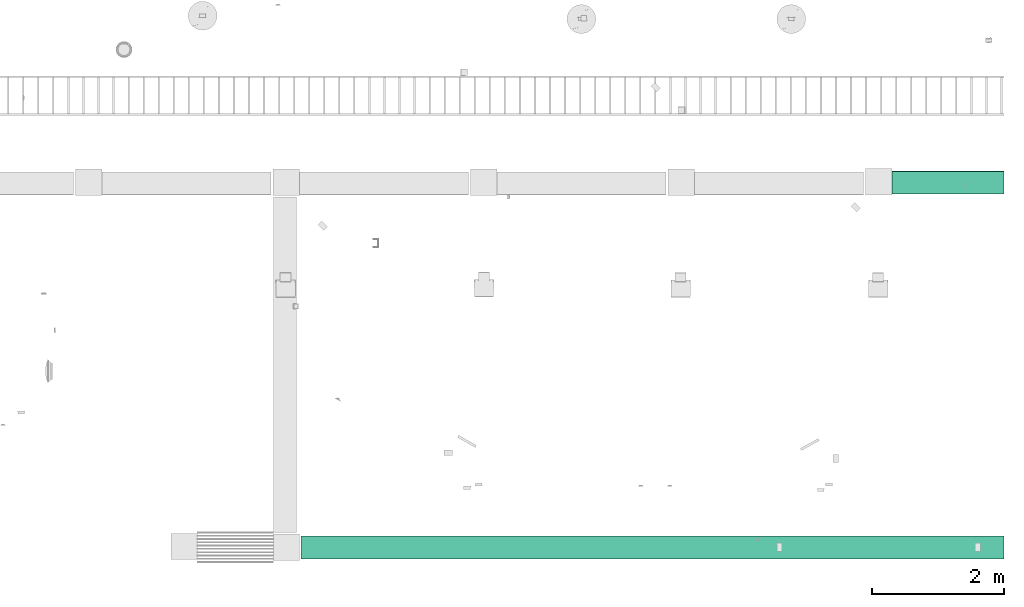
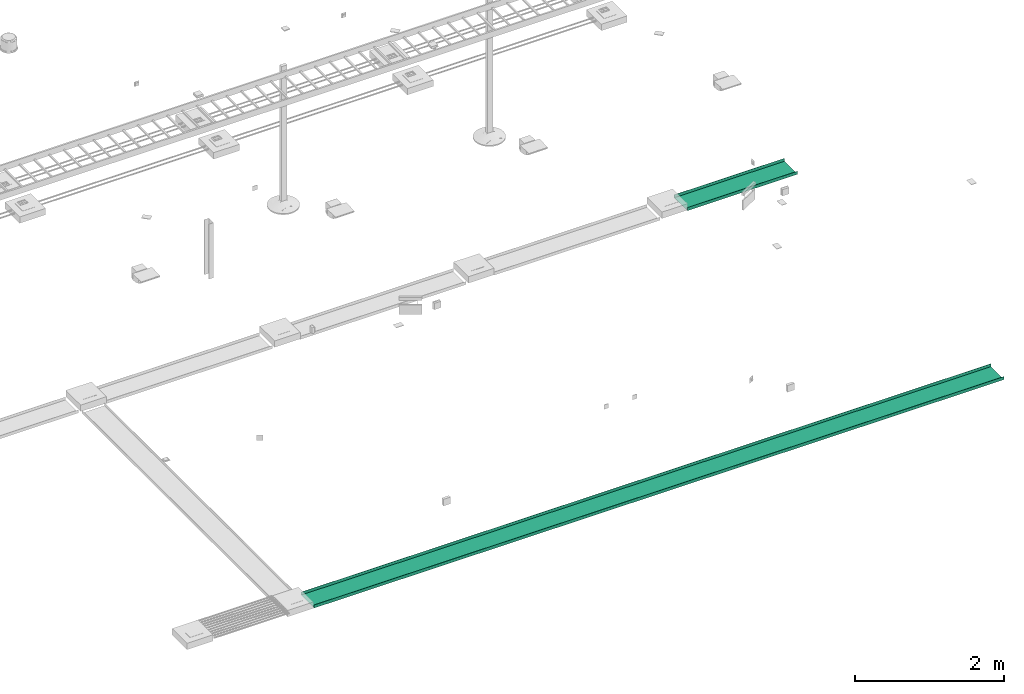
# One storey, part 21 of 24: 2 flow segments.
"""IFC2X3 building model written with IfcOpenShell, lengths in millimetres."""

from ifc_helpers import new_model, entity, si_unit, converted_unit, derived_unit, direction, frame, place, context, subcontext, project, spatial, faceted_brep, type_object, element, save


model = new_model("IFC2X3")

# Units and contexts
model_context = context("Model", 3, precision=0.01, world=frame((0.0, 4.29681676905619e-09, 0.0)), true_north=direction((4.01073788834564e-13, 1.0)))
plan_context = context("Plan", 3, precision=0.01, world=frame((0.0, 4.29681676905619e-09, 0.0)), true_north=direction((4.01073788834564e-13, 1.0)))
body_context = subcontext(model_context, "Body", "Model", "MODEL_VIEW")
ifc_project = project(units=[converted_unit("PLANEANGLEUNIT", "DEGREE", entity("IfcPositiveLengthMeasure", 0.0174532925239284), si_unit("PLANEANGLEUNIT", "RADIAN"), dimensions=[0, 0, 0, 0, 0, 0, 0]), si_unit("AREAUNIT", "SQUARE_METRE"), si_unit("LENGTHUNIT", "METRE", prefix="MILLI"), si_unit("MASSUNIT", "GRAM", prefix="KILO"), si_unit("POWERUNIT", "WATT"), si_unit("PRESSUREUNIT", "PASCAL"), si_unit("FORCEUNIT", "NEWTON", prefix="KILO"), si_unit("ELECTRICVOLTAGEUNIT", "VOLT"), si_unit("ELECTRICCURRENTUNIT", "AMPERE"), si_unit("THERMODYNAMICTEMPERATUREUNIT", "DEGREE_CELSIUS"), si_unit("TIMEUNIT", "SECOND"), si_unit("VOLUMEUNIT", "CUBIC_METRE"), derived_unit("LINEARVELOCITYUNIT", [(si_unit("LENGTHUNIT", "METRE"), 1), (si_unit("TIMEUNIT", "SECOND"), -1)]), derived_unit("VOLUMETRICFLOWRATEUNIT", [(si_unit("VOLUMEUNIT", "CUBIC_METRE"), 1), (si_unit("TIMEUNIT", "SECOND"), -1)]), derived_unit("THERMALTRANSMITTANCEUNIT", [(si_unit("POWERUNIT", "WATT"), 1), (si_unit("THERMODYNAMICTEMPERATUREUNIT", "KELVIN"), -1), (si_unit("AREAUNIT", "SQUARE_METRE"), -1)]), derived_unit("SOUNDPRESSUREUNIT", [(si_unit("PRESSUREUNIT", "PASCAL"), 1)])], contexts=[model_context, plan_context])

# Site, building, storey
site_placement = place(None, frame((0.0, -4.29681676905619e-09, 0.0), z_axis=(0.0, 0.0, 1.0), x_axis=(1.0, 0.0, 0.0)))
site = spatial("IfcSite", under=ifc_project, at=site_placement, Name="ENGM", CompositionType="ELEMENT")
building_placement = place(site_placement, frame((0.0, 4.29681676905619e-09, 0.0), z_axis=(0.0, 0.0, 1.0), x_axis=(1.0, 0.0, 0.0)))
building = spatial("IfcBuilding", under=site, at=building_placement, Name="TH", CompositionType="ELEMENT")
storey_placement = place(building_placement, frame((0.0, 0.0, 210200.0), z_axis=(0.0, 0.0, 1.0), x_axis=(1.0, 0.0, 0.0)))
storey = spatial("IfcBuildingStorey", under=building, at=storey_placement, Name="Nivå F - 0,7 m", CompositionType="ELEMENT", Elevation=210200.0)

# Flow segments
cable_carrier_segment_type = type_object("IfcCableCarrierSegmentType", Name="Gulvkanal", PredefinedType="CABLETRAYSEGMENT")
flow_segment_1_placement = place(storey_placement, frame((911280.0125, 482157.64501, -100.0), z_axis=(0.0, 0.0, 1.0), x_axis=(-1.0, 0.0, 0.0)))
element("IfcFlowSegment", 1, at=flow_segment_1_placement, inside=storey, type_object=cable_carrier_segment_type, Name="Gulvkanal", context=body_context, shape_type="Brep", body=[
    faceted_brep([(2572.16247, -175.0, 25.0), (2572.16247, -172.46, -22.46), (2572.16247, -175.0, -25.0), (2572.16247, -172.46, 25.0), (2572.16247, 175.0, -25.0), (2572.16247, 172.46, -22.46), (2572.16247, 175.0, 25.0), (2572.16247, 172.46, 25.0), (869.427658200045, -175.0, -25.0), (869.427658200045, -175.0, 8.09928575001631), (869.427658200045, -175.0, 25.0), (869.427658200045, -173.318556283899, 25.0), (869.427658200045, -172.46, 25.0), (869.427658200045, -172.46, 8.95784203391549), (869.427658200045, -172.46, -22.46), (869.427658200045, -55.8721128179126, -22.46), (869.427658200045, 172.46, -22.46), (869.427658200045, 172.46, -6.41784203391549), (869.427658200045, 172.46, 25.0), (869.427658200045, 174.141443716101, 25.0), (869.427658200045, 175.0, 25.0), (869.427658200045, 175.0, -8.09928575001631), (869.427658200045, 175.0, -25.0), (869.427658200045, 56.6950002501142, -25.0)], [[[0, 1, 2]], [[1, 0, 3]], [[4, 2, 1]], [[1, 5, 4]], [[6, 4, 5]], [[5, 7, 6]], [[8, 9, 2]], [[9, 10, 0, 2]], [[10, 11, 0]], [[11, 12, 3, 0]], [[13, 14, 1]], [[12, 13, 1, 3]], [[15, 16, 5]], [[14, 15, 5, 1]], [[17, 18, 7]], [[16, 17, 7, 5]], [[18, 19, 7]], [[19, 20, 6, 7]], [[20, 21, 6]], [[21, 22, 4, 6]], [[23, 8, 2]], [[22, 23, 2, 4]], [[23, 22, 21, 20, 19, 18, 17, 16, 15, 14, 13, 12, 11, 10, 9, 8]]], orient=[[False], [False], [False], [False], [False], [False], [False], [False], [False], [False], [False], [False], [False], [False], [False], [False], [False], [False], [False], [False], [False], [False], [False]]),
])
flow_segment_2_placement = place(storey_placement, frame((912734.75, 476617.30816, -100.0), z_axis=(0.0, 0.0, 1.0), x_axis=(-1.0, 0.0, 0.0)))
element("IfcFlowSegment", 2, at=flow_segment_2_placement, inside=storey, type_object=cable_carrier_segment_type, Name="Gulvkanal", context=body_context, shape_type="Brep", body=[
    faceted_brep([(12999.99952, -175.0, 25.0), (12999.99952, -172.46, -22.46), (12999.99952, -175.0, -25.0), (12999.99952, -172.46, 25.0), (12999.99952, 175.0, -25.0), (12999.99952, 172.46, -22.46), (12999.99952, 175.0, 25.0), (12999.99952, 172.46, 25.0), (2324.16515820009, -175.0, -25.0), (2324.16515820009, -175.0, 16.060902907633), (2324.16515820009, -175.0, 25.0), (2324.16515820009, -172.914106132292, 25.0), (2324.16515820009, -172.46, 25.0), (2324.16515820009, -172.46, 16.5150090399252), (2324.16515820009, -172.46, -22.46), (2324.16515820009, -110.794532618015, -22.46), (2324.16515820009, 172.46, -22.46), (2324.16515820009, 172.46, -13.9750090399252), (2324.16515820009, 172.46, 25.0), (2324.16515820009, 174.545893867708, 25.0), (2324.16515820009, 175.0, 25.0), (2324.16515820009, 175.0, -16.060902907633), (2324.16515820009, 175.0, -25.0), (2324.16515820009, 112.426320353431, -25.0)], [[[0, 1, 2]], [[1, 0, 3]], [[4, 2, 1]], [[1, 5, 4]], [[6, 4, 5]], [[5, 7, 6]], [[8, 9, 2]], [[9, 10, 0, 2]], [[10, 11, 0]], [[11, 12, 3, 0]], [[13, 14, 1]], [[12, 13, 1, 3]], [[15, 16, 5]], [[14, 15, 5, 1]], [[17, 18, 7]], [[16, 17, 7, 5]], [[18, 19, 7]], [[19, 20, 6, 7]], [[20, 21, 6]], [[21, 22, 4, 6]], [[23, 8, 2]], [[22, 23, 2, 4]], [[23, 22, 21, 20, 19, 18, 17, 16, 15, 14, 13, 12, 11, 10, 9, 8]]], orient=[[False], [False], [False], [False], [False], [False], [False], [False], [False], [False], [False], [False], [False], [False], [False], [False], [False], [False], [False], [False], [False], [False], [False]]),
])

save(model, "model.ifc")
